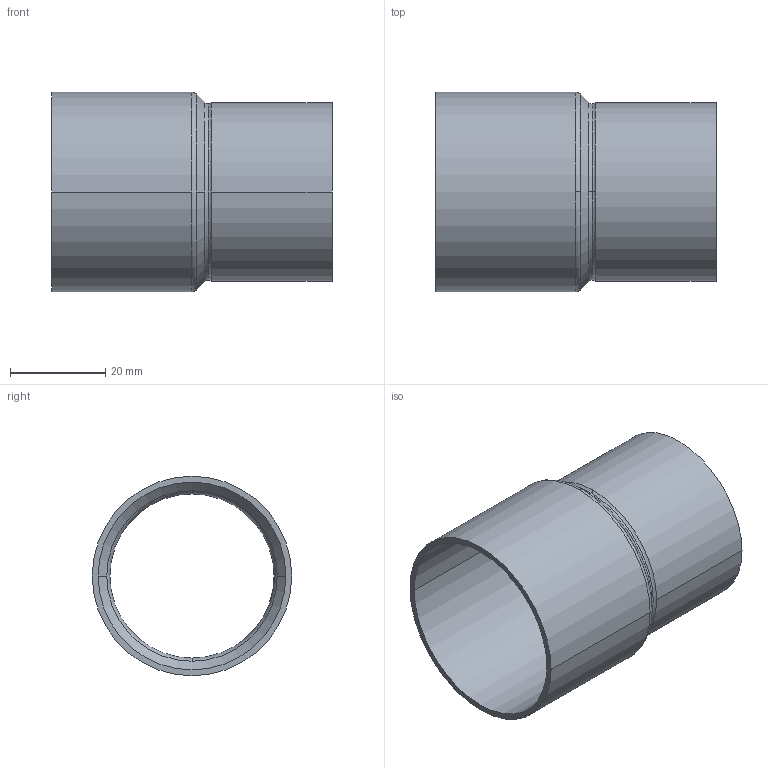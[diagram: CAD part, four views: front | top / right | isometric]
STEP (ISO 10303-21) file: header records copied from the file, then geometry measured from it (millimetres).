
FILE_DESCRIPTION((''),'2;1');
FILE_NAME('G:\Technics\CAD\Bauteile\Serie 15243\152434235.stp','2005-10-21T12:49:44',('boden'),(''),'Autodesk Inventor 8','Autodesk Inventor 8','');
FILE_SCHEMA(('AUTOMOTIVE_DESIGN { 1 0 10303 214 1 1 1 1 }'));
Length unit declared in the file: millimetre
Products named in the file (1): 152434235
Bounding box: 59 x 42 x 42 mm (x, y, z)
Volume: 9105.9 mm3; surface area: 14873.3 mm2
Topology: 1 solids, 1 shells, 24 faces, 60 edges, 38 vertices
Faces by surface type: cylinder 8, torus 6, bspline 4, cone 4, plane 2
Entity records: 931 total; most frequent: CARTESIAN_POINT 299, DIRECTION 150, ORIENTED_EDGE 120, AXIS2_PLACEMENT_3D 69, EDGE_CURVE 60, CIRCLE 48, VERTEX_POINT 38, EDGE_LOOP 26
